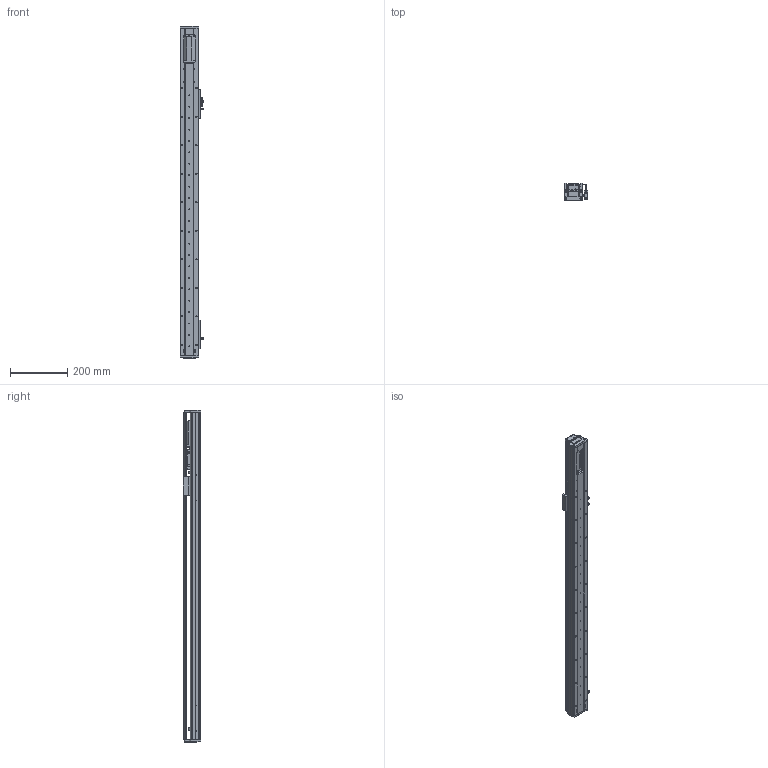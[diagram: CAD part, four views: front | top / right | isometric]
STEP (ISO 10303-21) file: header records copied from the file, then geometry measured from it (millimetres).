
FILE_DESCRIPTION (( 'STEP AP203' ), '1' );
FILE_NAME ('RY60-L1210-800-IK.SLDASM_800.step', '2021-02-22T05:24:44', ( '盈信电脑' ), ( '东莞市道滘镇水果街19号' ), 'SwSTEP 2.0', 'SolidWorks 2012', '' );
FILE_SCHEMA (( 'CONFIG_CONTROL_DESIGN' ));
Length unit declared in the file: millimetre
Products named in the file (11): RY60-L1210-800-IK.SLDASM_800; 滅袉蝶18-10; 侂狟100W; RY60綴裔啣; 覜茼ん672; 672嫖萇羲壽假蚾釱; RY80俋离覜茼え; RY60-800倰第裔啣-IK_800; RY60臏賑輸; RY60-800倰第菁釱-IK_800; RY60萇儂傷盓傅釱
Assembly tree (16 placements, depth 2):
  RY60-L1210-800-IK.SLDASM_800
    RY60-800倰第菁釱-IK_800
    RY60臏賑輸
    RY60-800倰第裔啣-IK_800
    RY60萇儂傷盓傅釱
    672嫖萇羲壽假蚾釱  x2
    RY60綴裔啣  x2
    覜茼ん672  x3
    RY80俋离覜茼え
    侂狟100W
    滅袉蝶18-10  x3
Bounding box: 83.7 x 61 x 1164 mm (x, y, z)
Volume: 1351248.5 mm3; surface area: 679391.1 mm2
Topology: 16 solids, 16 shells, 1601 faces, 4567 edges, 2961 vertices
Faces by surface type: plane 850, cylinder 641, cone 94, bspline 16
Entity records: 45858 total; most frequent: CARTESIAN_POINT 11877, ORIENTED_EDGE 7074, DIRECTION 6550, EDGE_CURVE 3537, VERTEX_POINT 2319, AXIS2_PLACEMENT_3D 2215, LINE 2120, VECTOR 2120
